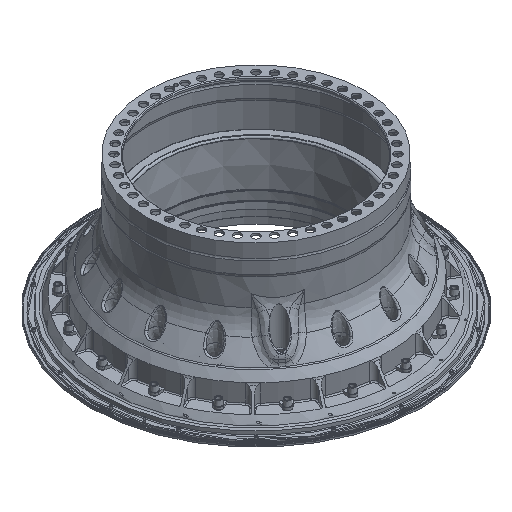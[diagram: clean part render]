
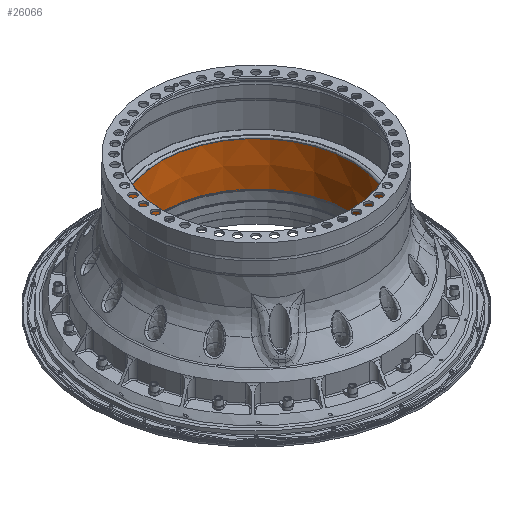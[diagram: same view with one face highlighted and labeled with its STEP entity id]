
A CAD part, isometric view. The second image highlights one B-rep face of the part: STEP entity #26066.
In plain terms, the highlighted conical face has half-angle 3 degrees and reference radius 134.176 mm.
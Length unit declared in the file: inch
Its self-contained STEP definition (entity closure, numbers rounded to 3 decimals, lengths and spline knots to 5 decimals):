
#22111=CONICAL_SURFACE('',#55864,5.28252,3.);
#23329=FACE_BOUND('',#30952,.T.);
#23330=FACE_BOUND('',#30953,.T.);
#26066=ADVANCED_FACE('',(#23329,#23330),#22111,.F.);
#30952=EDGE_LOOP('',(#40288));
#30953=EDGE_LOOP('',(#40289));
#40288=ORIENTED_EDGE('',*,*,#50786,.T.);
#40289=ORIENTED_EDGE('',*,*,#50787,.T.);
#45774=VERTEX_POINT('',#179428);
#45775=VERTEX_POINT('',#179430);
#50786=EDGE_CURVE('',#45774,#45774,#53109,.T.);
#50787=EDGE_CURVE('',#45775,#45775,#53110,.T.);
#53109=CIRCLE('',#55862,5.27656);
#53110=CIRCLE('',#55863,5.15393);
#55862=AXIS2_PLACEMENT_3D('',#179427,#61814,#61815);
#55863=AXIS2_PLACEMENT_3D('',#179429,#61816,#61817);
#55864=AXIS2_PLACEMENT_3D('',#179431,#61818,#61819);
#61814=DIRECTION('',(0.,0.,1.));
#61815=DIRECTION('',(1.,-0.014,0.));
#61816=DIRECTION('',(0.,0.,-1.));
#61817=DIRECTION('',(1.,-0.014,0.));
#61818=DIRECTION('',(0.,0.,1.));
#61819=DIRECTION('',(-1.,0.014,0.));
#179427=CARTESIAN_POINT('',(0.,0.,4.27082));
#179428=CARTESIAN_POINT('',(5.27605,-0.07375,4.27082));
#179429=CARTESIAN_POINT('',(0.,0.,1.93072));
#179430=CARTESIAN_POINT('',(5.15342,-0.07203,1.93072));
#179431=CARTESIAN_POINT('',(0.,0.,4.38453));
